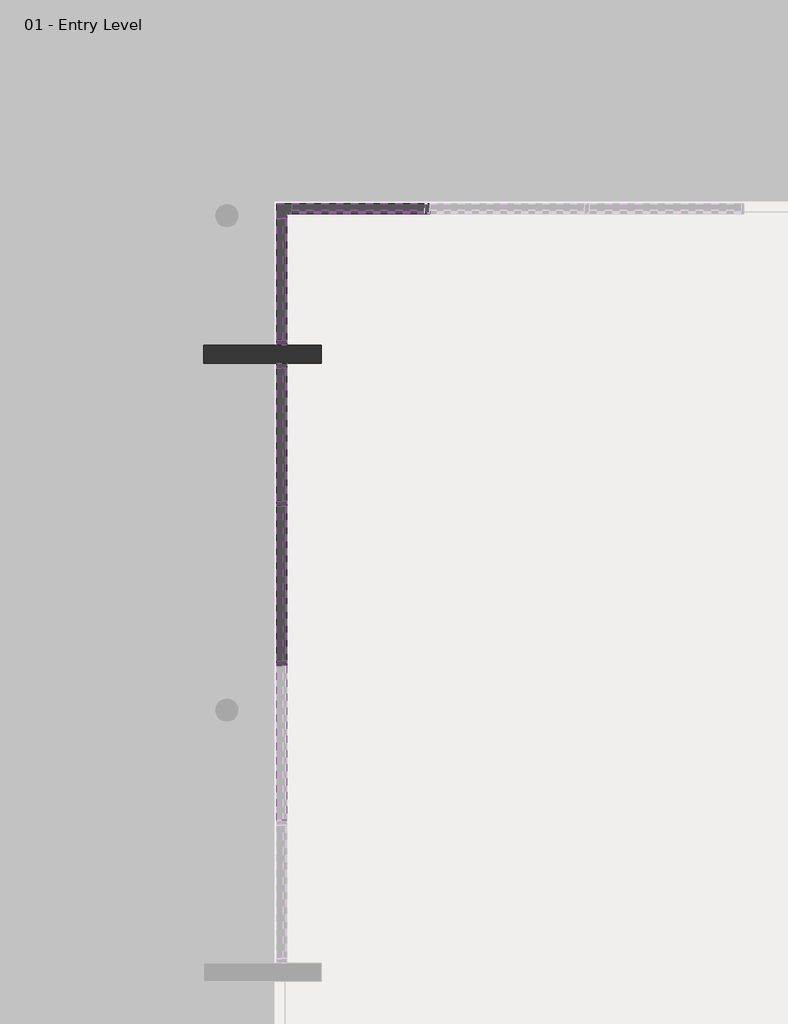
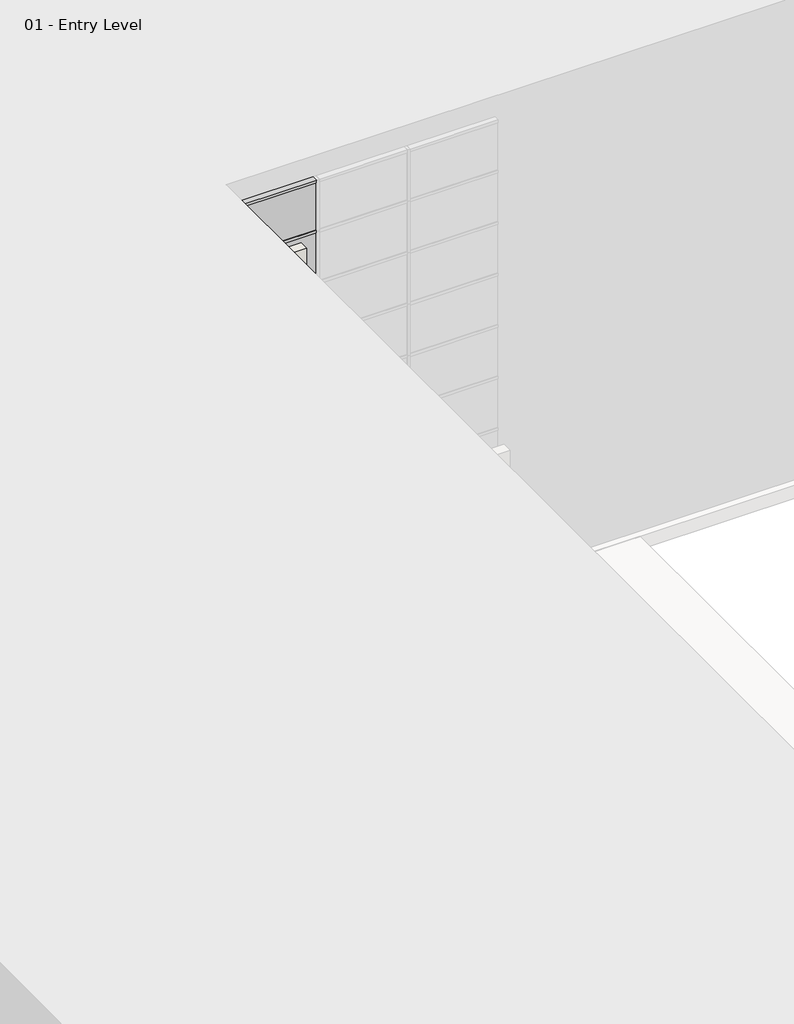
# One storey, part 25 of 34: 91 members, 36 plates, 1 wall.
"""IFC4 building model written with IfcOpenShell, lengths in millimetres."""

from ifc_helpers import new_model, si_unit, origin, origin_with_axes, place, context, project, spatial, polyline, outline, extrude, transform, mapped, element, save
from components import member_863be36e, member_2b49869a, member_75074519, member_391b434c, member_9e90ae50, member_515a5600, member_9fe7059d, member_fedd83b6, member_c1df12fd, system_panel_glazed_1b9d6098, system_panel_glazed_70da479d, system_panel_glazed_379c68fb, system_panel_glazed_1c1023c8, system_panel_glazed_2f1fb611, system_panel_glazed_7e97f2aa

model = new_model("IFC4")

# Units and contexts
model_context = context("Model", 3, world=origin())
ifc_project = project(units=[si_unit("LENGTHUNIT", "METRE", prefix="MILLI")], contexts=[model_context])

# Site, building, storey
site = spatial("IfcSite", under=ifc_project)
building = spatial("IfcBuilding", under=site)
storey = spatial("IfcBuildingStorey", under=building, Name="01 - Entry Level", Elevation=0.0)

# Members
placement = place(None, origin())
member_shape = member_863be36e(model_context)
element("IfcMember", 1, ObjectType="L Corner Mullion : 5\" x 5\" Corner", at=placement, inside=storey, context=model_context, shape_type="MappedRepresentation", body=[
    mapped(member_shape, transform((17184.0207476, 42751.3, 10972.8), x_axis=(-1.0, 0.0, 0.0), y_axis=(0.0, -1.0, 0.0), z_axis=(0.0, 0.0, 1.0))),
])
element("IfcMember", 2, ObjectType="L Corner Mullion : 5\" x 5\" Corner", at=placement, inside=storey, context=model_context, shape_type="MappedRepresentation", body=[
    mapped(member_shape, transform((17184.0207476, 42751.3, 1219.2), x_axis=(-1.0, 0.0, 0.0), y_axis=(0.0, -1.0, 0.0), z_axis=(0.0, 0.0, 1.0))),
])
element("IfcMember", 3, ObjectType="L Corner Mullion : 5\" x 5\" Corner", at=placement, inside=storey, context=model_context, shape_type="MappedRepresentation", body=[
    mapped(member_shape, transform((17184.0207476, 42751.3, 2438.4), x_axis=(-1.0, 0.0, 0.0), y_axis=(0.0, -1.0, 0.0), z_axis=(0.0, 0.0, 1.0))),
])
element("IfcMember", 4, ObjectType="L Corner Mullion : 5\" x 5\" Corner", at=placement, inside=storey, context=model_context, shape_type="MappedRepresentation", body=[
    mapped(member_shape, transform((17184.0207476, 42751.3, 3657.6), x_axis=(-1.0, 0.0, 0.0), y_axis=(0.0, -1.0, 0.0), z_axis=(0.0, 0.0, 1.0))),
])
element("IfcMember", 5, ObjectType="L Corner Mullion : 5\" x 5\" Corner", at=placement, inside=storey, context=model_context, shape_type="MappedRepresentation", body=[
    mapped(member_shape, transform((17184.0207476, 42751.3, 4876.8), x_axis=(-1.0, 0.0, 0.0), y_axis=(0.0, -1.0, 0.0), z_axis=(0.0, 0.0, 1.0))),
])
element("IfcMember", 6, ObjectType="L Corner Mullion : 5\" x 5\" Corner", at=placement, inside=storey, context=model_context, shape_type="MappedRepresentation", body=[
    mapped(member_shape, transform((17184.0207476, 42751.3, 6096.0), x_axis=(-1.0, 0.0, 0.0), y_axis=(0.0, -1.0, 0.0), z_axis=(0.0, 0.0, 1.0))),
])
element("IfcMember", 7, ObjectType="L Corner Mullion : 5\" x 5\" Corner", at=placement, inside=storey, context=model_context, shape_type="MappedRepresentation", body=[
    mapped(member_shape, transform((17184.0207476, 42751.3, 7315.2), x_axis=(-1.0, 0.0, 0.0), y_axis=(0.0, -1.0, 0.0), z_axis=(0.0, 0.0, 1.0))),
])
element("IfcMember", 8, ObjectType="L Corner Mullion : 5\" x 5\" Corner", at=placement, inside=storey, context=model_context, shape_type="MappedRepresentation", body=[
    mapped(member_shape, transform((17184.0207476, 42751.3, 8534.4), x_axis=(-1.0, 0.0, 0.0), y_axis=(0.0, -1.0, 0.0), z_axis=(0.0, 0.0, 1.0))),
])
element("IfcMember", 9, ObjectType="L Corner Mullion : 5\" x 5\" Corner", at=placement, inside=storey, context=model_context, shape_type="MappedRepresentation", body=[
    mapped(member_shape, transform((17184.0207476, 42751.3, 9753.6), x_axis=(-1.0, 0.0, 0.0), y_axis=(0.0, -1.0, 0.0), z_axis=(0.0, 0.0, 1.0))),
])
member_2_shape = member_2b49869a(model_context)
element("IfcMember", 10, ObjectType="Rectangular Mullion : 2.5\" x 5\" rectangular", at=placement, inside=storey, context=model_context, shape_type="MappedRepresentation", body=[
    mapped(member_2_shape, transform((17184.0207476, 36960.1, 9753.6), x_axis=(0.0, 1.0, 0.0), y_axis=(1.0, 0.0, 0.0), z_axis=(0.0, 0.0, -1.0))),
])
element("IfcMember", 11, ObjectType="Rectangular Mullion : 2.5\" x 5\" rectangular", at=placement, inside=storey, context=model_context, shape_type="MappedRepresentation", body=[
    mapped(member_2_shape, transform((17184.0207476, 38992.1, 9753.6), x_axis=(0.0, 1.0, 0.0), y_axis=(1.0, 0.0, 0.0), z_axis=(0.0, 0.0, -1.0))),
])
member_3_shape = member_75074519(model_context)
element("IfcMember", 12, ObjectType="Rectangular Mullion : 2.5\" x 5\" rectangular", at=placement, inside=storey, context=model_context, shape_type="MappedRepresentation", body=[
    mapped(member_3_shape, transform((17184.0207476, 41011.4, 10972.8), x_axis=(0.0, -1.0, 0.0), y_axis=(1.0, 0.0, 0.0), z_axis=(0.0, 0.0, 1.0))),
])
element("IfcMember", 13, ObjectType="Rectangular Mullion : 2.5\" x 5\" rectangular", at=placement, inside=storey, context=model_context, shape_type="MappedRepresentation", body=[
    mapped(member_3_shape, transform((17184.0207476, 40782.8, 9753.6), x_axis=(0.0, 1.0, 0.0), y_axis=(1.0, 0.0, 0.0), z_axis=(0.0, 0.0, -1.0))),
])
member_4_shape = member_391b434c(model_context)
element("IfcMember", 14, ObjectType="Rectangular Mullion : 2.5\" x 5\" rectangular", at=placement, inside=storey, context=model_context, shape_type="MappedRepresentation", body=[
    mapped(member_4_shape, transform((17184.0207476, 38960.35, 10972.8), x_axis=(0.0, 0.0, 1.0), y_axis=(1.0, 0.0, 0.0), z_axis=(0.0, 1.0, 0.0))),
])
element("IfcMember", 15, ObjectType="Rectangular Mullion : 2.5\" x 5\" rectangular", at=placement, inside=storey, context=model_context, shape_type="MappedRepresentation", body=[
    mapped(member_4_shape, transform((19069.9707476, 42751.3, 0.0), x_axis=(0.0, 0.0, -1.0), y_axis=(0.0, -1.0, 0.0), z_axis=(-1.0, 0.0, 0.0))),
])
member_5_shape = member_9e90ae50(model_context)
element("IfcMember", 16, ObjectType="Rectangular Mullion : 2.5\" x 5\" rectangular", at=placement, inside=storey, context=model_context, shape_type="MappedRepresentation", body=[
    mapped(member_5_shape, transform((17184.0207476, 38960.35, 1219.2), x_axis=(0.0, 0.0, 1.0), y_axis=(1.0, 0.0, 0.0), z_axis=(0.0, 1.0, 0.0))),
])
element("IfcMember", 17, ObjectType="Rectangular Mullion : 2.5\" x 5\" rectangular", at=placement, inside=storey, context=model_context, shape_type="MappedRepresentation", body=[
    mapped(member_5_shape, transform((17184.0207476, 38960.35, 2438.4), x_axis=(0.0, 0.0, 1.0), y_axis=(1.0, 0.0, 0.0), z_axis=(0.0, 1.0, 0.0))),
])
element("IfcMember", 18, ObjectType="Rectangular Mullion : 2.5\" x 5\" rectangular", at=placement, inside=storey, context=model_context, shape_type="MappedRepresentation", body=[
    mapped(member_5_shape, transform((17184.0207476, 38960.35, 3657.6), x_axis=(0.0, 0.0, 1.0), y_axis=(1.0, 0.0, 0.0), z_axis=(0.0, 1.0, 0.0))),
])
element("IfcMember", 19, ObjectType="Rectangular Mullion : 2.5\" x 5\" rectangular", at=placement, inside=storey, context=model_context, shape_type="MappedRepresentation", body=[
    mapped(member_5_shape, transform((17184.0207476, 38960.35, 4876.8), x_axis=(0.0, 0.0, 1.0), y_axis=(1.0, 0.0, 0.0), z_axis=(0.0, 1.0, 0.0))),
])
element("IfcMember", 20, ObjectType="Rectangular Mullion : 2.5\" x 5\" rectangular", at=placement, inside=storey, context=model_context, shape_type="MappedRepresentation", body=[
    mapped(member_5_shape, transform((17184.0207476, 38960.35, 6096.0), x_axis=(0.0, 0.0, 1.0), y_axis=(1.0, 0.0, 0.0), z_axis=(0.0, 1.0, 0.0))),
])
element("IfcMember", 21, ObjectType="Rectangular Mullion : 2.5\" x 5\" rectangular", at=placement, inside=storey, context=model_context, shape_type="MappedRepresentation", body=[
    mapped(member_5_shape, transform((17184.0207476, 38960.35, 7315.2), x_axis=(0.0, 0.0, 1.0), y_axis=(1.0, 0.0, 0.0), z_axis=(0.0, 1.0, 0.0))),
])
element("IfcMember", 22, ObjectType="Rectangular Mullion : 2.5\" x 5\" rectangular", at=placement, inside=storey, context=model_context, shape_type="MappedRepresentation", body=[
    mapped(member_5_shape, transform((17184.0207476, 38960.35, 8534.4), x_axis=(0.0, 0.0, 1.0), y_axis=(1.0, 0.0, 0.0), z_axis=(0.0, 1.0, 0.0))),
])
element("IfcMember", 23, ObjectType="Rectangular Mullion : 2.5\" x 5\" rectangular", at=placement, inside=storey, context=model_context, shape_type="MappedRepresentation", body=[
    mapped(member_5_shape, transform((17184.0207476, 36928.35, 9753.6), x_axis=(0.0, 0.0, 1.0), y_axis=(1.0, 0.0, 0.0), z_axis=(0.0, 1.0, 0.0))),
])
element("IfcMember", 24, ObjectType="Rectangular Mullion : 2.5\" x 5\" rectangular", at=placement, inside=storey, context=model_context, shape_type="MappedRepresentation", body=[
    mapped(member_5_shape, transform((17184.0207476, 38960.35, 9753.6), x_axis=(0.0, 0.0, 1.0), y_axis=(1.0, 0.0, 0.0), z_axis=(0.0, 1.0, 0.0))),
])
element("IfcMember", 25, ObjectType="Rectangular Mullion : 2.5\" x 5\" rectangular", at=placement, inside=storey, context=model_context, shape_type="MappedRepresentation", body=[
    mapped(member_2_shape, transform((19038.2207476, 42751.3, 0.0), x_axis=(1.0, 0.0, 0.0), y_axis=(0.0, -1.0, 0.0), z_axis=(0.0, 0.0, -1.0))),
])
element("IfcMember", 26, ObjectType="Rectangular Mullion : 2.5\" x 5\" rectangular", at=placement, inside=storey, context=model_context, shape_type="MappedRepresentation", body=[
    mapped(member_2_shape, transform((17184.0207476, 36960.1, 0.0), x_axis=(0.0, 1.0, 0.0), y_axis=(1.0, 0.0, 0.0), z_axis=(0.0, 0.0, -1.0))),
])
element("IfcMember", 27, ObjectType="Rectangular Mullion : 2.5\" x 5\" rectangular", at=placement, inside=storey, context=model_context, shape_type="MappedRepresentation", body=[
    mapped(member_2_shape, transform((17184.0207476, 38992.1, 0.0), x_axis=(0.0, 1.0, 0.0), y_axis=(1.0, 0.0, 0.0), z_axis=(0.0, 0.0, -1.0))),
])
element("IfcMember", 28, ObjectType="Rectangular Mullion : 2.5\" x 5\" rectangular", at=placement, inside=storey, context=model_context, shape_type="MappedRepresentation", body=[
    mapped(member_2_shape, transform((19038.2207476, 42751.3, 1219.2), x_axis=(1.0, 0.0, 0.0), y_axis=(0.0, -1.0, 0.0), z_axis=(0.0, 0.0, -1.0))),
])
element("IfcMember", 29, ObjectType="Rectangular Mullion : 2.5\" x 5\" rectangular", at=placement, inside=storey, context=model_context, shape_type="MappedRepresentation", body=[
    mapped(member_2_shape, transform((19038.2207476, 42751.3, 2438.4), x_axis=(1.0, 0.0, 0.0), y_axis=(0.0, -1.0, 0.0), z_axis=(0.0, 0.0, -1.0))),
])
element("IfcMember", 30, ObjectType="Rectangular Mullion : 2.5\" x 5\" rectangular", at=placement, inside=storey, context=model_context, shape_type="MappedRepresentation", body=[
    mapped(member_2_shape, transform((19038.2207476, 42751.3, 3657.6), x_axis=(1.0, 0.0, 0.0), y_axis=(0.0, -1.0, 0.0), z_axis=(0.0, 0.0, -1.0))),
])
element("IfcMember", 31, ObjectType="Rectangular Mullion : 2.5\" x 5\" rectangular", at=placement, inside=storey, context=model_context, shape_type="MappedRepresentation", body=[
    mapped(member_2_shape, transform((19038.2207476, 42751.3, 4876.8), x_axis=(1.0, 0.0, 0.0), y_axis=(0.0, -1.0, 0.0), z_axis=(0.0, 0.0, -1.0))),
])
element("IfcMember", 32, ObjectType="Rectangular Mullion : 2.5\" x 5\" rectangular", at=placement, inside=storey, context=model_context, shape_type="MappedRepresentation", body=[
    mapped(member_2_shape, transform((17184.0207476, 36960.1, 1219.2), x_axis=(0.0, 1.0, 0.0), y_axis=(1.0, 0.0, 0.0), z_axis=(0.0, 0.0, -1.0))),
])
element("IfcMember", 33, ObjectType="Rectangular Mullion : 2.5\" x 5\" rectangular", at=placement, inside=storey, context=model_context, shape_type="MappedRepresentation", body=[
    mapped(member_2_shape, transform((17184.0207476, 38992.1, 1219.2), x_axis=(0.0, 1.0, 0.0), y_axis=(1.0, 0.0, 0.0), z_axis=(0.0, 0.0, -1.0))),
])
element("IfcMember", 34, ObjectType="Rectangular Mullion : 2.5\" x 5\" rectangular", at=placement, inside=storey, context=model_context, shape_type="MappedRepresentation", body=[
    mapped(member_2_shape, transform((17184.0207476, 36960.1, 2438.4), x_axis=(0.0, 1.0, 0.0), y_axis=(1.0, 0.0, 0.0), z_axis=(0.0, 0.0, -1.0))),
])
element("IfcMember", 35, ObjectType="Rectangular Mullion : 2.5\" x 5\" rectangular", at=placement, inside=storey, context=model_context, shape_type="MappedRepresentation", body=[
    mapped(member_2_shape, transform((17184.0207476, 38992.1, 2438.4), x_axis=(0.0, 1.0, 0.0), y_axis=(1.0, 0.0, 0.0), z_axis=(0.0, 0.0, -1.0))),
])
element("IfcMember", 36, ObjectType="Rectangular Mullion : 2.5\" x 5\" rectangular", at=placement, inside=storey, context=model_context, shape_type="MappedRepresentation", body=[
    mapped(member_2_shape, transform((17184.0207476, 36960.1, 3657.6), x_axis=(0.0, 1.0, 0.0), y_axis=(1.0, 0.0, 0.0), z_axis=(0.0, 0.0, -1.0))),
])
element("IfcMember", 37, ObjectType="Rectangular Mullion : 2.5\" x 5\" rectangular", at=placement, inside=storey, context=model_context, shape_type="MappedRepresentation", body=[
    mapped(member_2_shape, transform((17184.0207476, 38992.1, 3657.6), x_axis=(0.0, 1.0, 0.0), y_axis=(1.0, 0.0, 0.0), z_axis=(0.0, 0.0, -1.0))),
])
element("IfcMember", 38, ObjectType="Rectangular Mullion : 2.5\" x 5\" rectangular", at=placement, inside=storey, context=model_context, shape_type="MappedRepresentation", body=[
    mapped(member_2_shape, transform((17184.0207476, 36960.1, 4876.8), x_axis=(0.0, 1.0, 0.0), y_axis=(1.0, 0.0, 0.0), z_axis=(0.0, 0.0, -1.0))),
])
element("IfcMember", 39, ObjectType="Rectangular Mullion : 2.5\" x 5\" rectangular", at=placement, inside=storey, context=model_context, shape_type="MappedRepresentation", body=[
    mapped(member_2_shape, transform((17184.0207476, 38992.1, 4876.8), x_axis=(0.0, 1.0, 0.0), y_axis=(1.0, 0.0, 0.0), z_axis=(0.0, 0.0, -1.0))),
])
element("IfcMember", 40, ObjectType="Rectangular Mullion : 2.5\" x 5\" rectangular", at=placement, inside=storey, context=model_context, shape_type="MappedRepresentation", body=[
    mapped(member_2_shape, transform((17184.0207476, 36960.1, 6096.0), x_axis=(0.0, 1.0, 0.0), y_axis=(1.0, 0.0, 0.0), z_axis=(0.0, 0.0, -1.0))),
])
element("IfcMember", 41, ObjectType="Rectangular Mullion : 2.5\" x 5\" rectangular", at=placement, inside=storey, context=model_context, shape_type="MappedRepresentation", body=[
    mapped(member_2_shape, transform((17184.0207476, 38992.1, 6096.0), x_axis=(0.0, 1.0, 0.0), y_axis=(1.0, 0.0, 0.0), z_axis=(0.0, 0.0, -1.0))),
])
element("IfcMember", 42, ObjectType="Rectangular Mullion : 2.5\" x 5\" rectangular", at=placement, inside=storey, context=model_context, shape_type="MappedRepresentation", body=[
    mapped(member_2_shape, transform((17184.0207476, 36960.1, 7315.2), x_axis=(0.0, 1.0, 0.0), y_axis=(1.0, 0.0, 0.0), z_axis=(0.0, 0.0, -1.0))),
])
element("IfcMember", 43, ObjectType="Rectangular Mullion : 2.5\" x 5\" rectangular", at=placement, inside=storey, context=model_context, shape_type="MappedRepresentation", body=[
    mapped(member_2_shape, transform((17184.0207476, 38992.1, 7315.2), x_axis=(0.0, 1.0, 0.0), y_axis=(1.0, 0.0, 0.0), z_axis=(0.0, 0.0, -1.0))),
])
element("IfcMember", 44, ObjectType="Rectangular Mullion : 2.5\" x 5\" rectangular", at=placement, inside=storey, context=model_context, shape_type="MappedRepresentation", body=[
    mapped(member_2_shape, transform((17184.0207476, 36960.1, 8534.4), x_axis=(0.0, 1.0, 0.0), y_axis=(1.0, 0.0, 0.0), z_axis=(0.0, 0.0, -1.0))),
])
element("IfcMember", 45, ObjectType="Rectangular Mullion : 2.5\" x 5\" rectangular", at=placement, inside=storey, context=model_context, shape_type="MappedRepresentation", body=[
    mapped(member_2_shape, transform((17184.0207476, 38992.1, 8534.4), x_axis=(0.0, 1.0, 0.0), y_axis=(1.0, 0.0, 0.0), z_axis=(0.0, 0.0, -1.0))),
])
element("IfcMember", 46, ObjectType="Rectangular Mullion : 2.5\" x 5\" rectangular", at=placement, inside=storey, context=model_context, shape_type="MappedRepresentation", body=[
    mapped(member_3_shape, transform((17184.0207476, 40782.8, 0.0), x_axis=(0.0, 1.0, 0.0), y_axis=(1.0, 0.0, 0.0), z_axis=(0.0, 0.0, -1.0))),
])
element("IfcMember", 47, ObjectType="Rectangular Mullion : 2.5\" x 5\" rectangular", at=placement, inside=storey, context=model_context, shape_type="MappedRepresentation", body=[
    mapped(member_3_shape, transform((17184.0207476, 40782.8, 1219.2), x_axis=(0.0, 1.0, 0.0), y_axis=(1.0, 0.0, 0.0), z_axis=(0.0, 0.0, -1.0))),
])
element("IfcMember", 48, ObjectType="Rectangular Mullion : 2.5\" x 5\" rectangular", at=placement, inside=storey, context=model_context, shape_type="MappedRepresentation", body=[
    mapped(member_3_shape, transform((17184.0207476, 40782.8, 2438.4), x_axis=(0.0, 1.0, 0.0), y_axis=(1.0, 0.0, 0.0), z_axis=(0.0, 0.0, -1.0))),
])
element("IfcMember", 49, ObjectType="Rectangular Mullion : 2.5\" x 5\" rectangular", at=placement, inside=storey, context=model_context, shape_type="MappedRepresentation", body=[
    mapped(member_3_shape, transform((17184.0207476, 40782.8, 3657.6), x_axis=(0.0, 1.0, 0.0), y_axis=(1.0, 0.0, 0.0), z_axis=(0.0, 0.0, -1.0))),
])
element("IfcMember", 50, ObjectType="Rectangular Mullion : 2.5\" x 5\" rectangular", at=placement, inside=storey, context=model_context, shape_type="MappedRepresentation", body=[
    mapped(member_3_shape, transform((17184.0207476, 40782.8, 4876.8), x_axis=(0.0, 1.0, 0.0), y_axis=(1.0, 0.0, 0.0), z_axis=(0.0, 0.0, -1.0))),
])
element("IfcMember", 51, ObjectType="Rectangular Mullion : 2.5\" x 5\" rectangular", at=placement, inside=storey, context=model_context, shape_type="MappedRepresentation", body=[
    mapped(member_3_shape, transform((17184.0207476, 40782.8, 6096.0), x_axis=(0.0, 1.0, 0.0), y_axis=(1.0, 0.0, 0.0), z_axis=(0.0, 0.0, -1.0))),
])
element("IfcMember", 52, ObjectType="Rectangular Mullion : 2.5\" x 5\" rectangular", at=placement, inside=storey, context=model_context, shape_type="MappedRepresentation", body=[
    mapped(member_3_shape, transform((17184.0207476, 40782.8, 7315.2), x_axis=(0.0, 1.0, 0.0), y_axis=(1.0, 0.0, 0.0), z_axis=(0.0, 0.0, -1.0))),
])
element("IfcMember", 53, ObjectType="Rectangular Mullion : 2.5\" x 5\" rectangular", at=placement, inside=storey, context=model_context, shape_type="MappedRepresentation", body=[
    mapped(member_3_shape, transform((17184.0207476, 40782.8, 8534.4), x_axis=(0.0, 1.0, 0.0), y_axis=(1.0, 0.0, 0.0), z_axis=(0.0, 0.0, -1.0))),
])
element("IfcMember", 54, ObjectType="Rectangular Mullion : 2.5\" x 5\" rectangular", at=placement, inside=storey, context=model_context, shape_type="MappedRepresentation", body=[
    mapped(member_3_shape, transform((17184.0207476, 41011.4, 1219.2), x_axis=(0.0, -1.0, 0.0), y_axis=(1.0, 0.0, 0.0), z_axis=(0.0, 0.0, 1.0))),
])
element("IfcMember", 55, ObjectType="Rectangular Mullion : 2.5\" x 5\" rectangular", at=placement, inside=storey, context=model_context, shape_type="MappedRepresentation", body=[
    mapped(member_3_shape, transform((17184.0207476, 41011.4, 2438.4), x_axis=(0.0, -1.0, 0.0), y_axis=(1.0, 0.0, 0.0), z_axis=(0.0, 0.0, 1.0))),
])
element("IfcMember", 56, ObjectType="Rectangular Mullion : 2.5\" x 5\" rectangular", at=placement, inside=storey, context=model_context, shape_type="MappedRepresentation", body=[
    mapped(member_3_shape, transform((17184.0207476, 41011.4, 3657.6), x_axis=(0.0, -1.0, 0.0), y_axis=(1.0, 0.0, 0.0), z_axis=(0.0, 0.0, 1.0))),
])
element("IfcMember", 57, ObjectType="Rectangular Mullion : 2.5\" x 5\" rectangular", at=placement, inside=storey, context=model_context, shape_type="MappedRepresentation", body=[
    mapped(member_3_shape, transform((17184.0207476, 41011.4, 4876.8), x_axis=(0.0, -1.0, 0.0), y_axis=(1.0, 0.0, 0.0), z_axis=(0.0, 0.0, 1.0))),
])
element("IfcMember", 58, ObjectType="Rectangular Mullion : 2.5\" x 5\" rectangular", at=placement, inside=storey, context=model_context, shape_type="MappedRepresentation", body=[
    mapped(member_3_shape, transform((17184.0207476, 41011.4, 6096.0), x_axis=(0.0, -1.0, 0.0), y_axis=(1.0, 0.0, 0.0), z_axis=(0.0, 0.0, 1.0))),
])
element("IfcMember", 59, ObjectType="Rectangular Mullion : 2.5\" x 5\" rectangular", at=placement, inside=storey, context=model_context, shape_type="MappedRepresentation", body=[
    mapped(member_3_shape, transform((17184.0207476, 41011.4, 7315.2), x_axis=(0.0, -1.0, 0.0), y_axis=(1.0, 0.0, 0.0), z_axis=(0.0, 0.0, 1.0))),
])
element("IfcMember", 60, ObjectType="Rectangular Mullion : 2.5\" x 5\" rectangular", at=placement, inside=storey, context=model_context, shape_type="MappedRepresentation", body=[
    mapped(member_3_shape, transform((17184.0207476, 41011.4, 8534.4), x_axis=(0.0, -1.0, 0.0), y_axis=(1.0, 0.0, 0.0), z_axis=(0.0, 0.0, 1.0))),
])
element("IfcMember", 61, ObjectType="Rectangular Mullion : 2.5\" x 5\" rectangular", at=placement, inside=storey, context=model_context, shape_type="MappedRepresentation", body=[
    mapped(member_3_shape, transform((17184.0207476, 41011.4, 9753.6), x_axis=(0.0, -1.0, 0.0), y_axis=(1.0, 0.0, 0.0), z_axis=(0.0, 0.0, 1.0))),
])
member_6_shape = member_515a5600(model_context)
element("IfcMember", 62, ObjectType="Rectangular Mullion : 2.5\" x 5\" rectangular", at=placement, inside=storey, context=model_context, shape_type="MappedRepresentation", body=[
    mapped(member_6_shape, transform((17184.0207476, 40719.3, 10972.8), x_axis=(0.0, 0.0, 1.0), y_axis=(1.0, 0.0, 0.0), z_axis=(0.0, 1.0, 0.0))),
])
element("IfcMember", 63, ObjectType="Rectangular Mullion : 2.5\" x 5\" rectangular", at=placement, inside=storey, context=model_context, shape_type="MappedRepresentation", body=[
    mapped(member_6_shape, transform((19006.4707476, 42751.3, 10972.8), x_axis=(0.0, 0.0, 1.0), y_axis=(0.0, -1.0, 0.0), z_axis=(1.0, 0.0, 0.0))),
])
element("IfcMember", 64, ObjectType="Rectangular Mullion : 2.5\" x 5\" rectangular", at=placement, inside=storey, context=model_context, shape_type="MappedRepresentation", body=[
    mapped(member_6_shape, transform((17311.0207476, 42751.3, 0.0), x_axis=(0.0, 0.0, -1.0), y_axis=(0.0, -1.0, 0.0), z_axis=(-1.0, 0.0, 0.0))),
])
element("IfcMember", 65, ObjectType="Rectangular Mullion : 2.5\" x 5\" rectangular", at=placement, inside=storey, context=model_context, shape_type="MappedRepresentation", body=[
    mapped(member_6_shape, transform((17184.0207476, 39023.85, 0.0), x_axis=(0.0, 0.0, -1.0), y_axis=(1.0, 0.0, 0.0), z_axis=(0.0, -1.0, 0.0))),
])
member_7_shape = member_9fe7059d(model_context)
element("IfcMember", 66, ObjectType="Rectangular Mullion : 2.5\" x 5\" rectangular", at=placement, inside=storey, context=model_context, shape_type="MappedRepresentation", body=[
    mapped(member_7_shape, transform((19006.4707476, 42751.3, 1219.2), x_axis=(0.0, 0.0, 1.0), y_axis=(0.0, -1.0, 0.0), z_axis=(1.0, 0.0, 0.0))),
])
element("IfcMember", 67, ObjectType="Rectangular Mullion : 2.5\" x 5\" rectangular", at=placement, inside=storey, context=model_context, shape_type="MappedRepresentation", body=[
    mapped(member_7_shape, transform((19006.4707476, 42751.3, 2438.4), x_axis=(0.0, 0.0, 1.0), y_axis=(0.0, -1.0, 0.0), z_axis=(1.0, 0.0, 0.0))),
])
element("IfcMember", 68, ObjectType="Rectangular Mullion : 2.5\" x 5\" rectangular", at=placement, inside=storey, context=model_context, shape_type="MappedRepresentation", body=[
    mapped(member_7_shape, transform((19006.4707476, 42751.3, 3657.6), x_axis=(0.0, 0.0, 1.0), y_axis=(0.0, -1.0, 0.0), z_axis=(1.0, 0.0, 0.0))),
])
element("IfcMember", 69, ObjectType="Rectangular Mullion : 2.5\" x 5\" rectangular", at=placement, inside=storey, context=model_context, shape_type="MappedRepresentation", body=[
    mapped(member_7_shape, transform((19006.4707476, 42751.3, 4876.8), x_axis=(0.0, 0.0, 1.0), y_axis=(0.0, -1.0, 0.0), z_axis=(1.0, 0.0, 0.0))),
])
element("IfcMember", 70, ObjectType="Rectangular Mullion : 2.5\" x 5\" rectangular", at=placement, inside=storey, context=model_context, shape_type="MappedRepresentation", body=[
    mapped(member_7_shape, transform((19006.4707476, 42751.3, 6096.0), x_axis=(0.0, 0.0, 1.0), y_axis=(0.0, -1.0, 0.0), z_axis=(1.0, 0.0, 0.0))),
])
element("IfcMember", 71, ObjectType="Rectangular Mullion : 2.5\" x 5\" rectangular", at=placement, inside=storey, context=model_context, shape_type="MappedRepresentation", body=[
    mapped(member_7_shape, transform((19006.4707476, 42751.3, 7315.2), x_axis=(0.0, 0.0, 1.0), y_axis=(0.0, -1.0, 0.0), z_axis=(1.0, 0.0, 0.0))),
])
element("IfcMember", 72, ObjectType="Rectangular Mullion : 2.5\" x 5\" rectangular", at=placement, inside=storey, context=model_context, shape_type="MappedRepresentation", body=[
    mapped(member_7_shape, transform((19006.4707476, 42751.3, 8534.4), x_axis=(0.0, 0.0, 1.0), y_axis=(0.0, -1.0, 0.0), z_axis=(1.0, 0.0, 0.0))),
])
element("IfcMember", 73, ObjectType="Rectangular Mullion : 2.5\" x 5\" rectangular", at=placement, inside=storey, context=model_context, shape_type="MappedRepresentation", body=[
    mapped(member_7_shape, transform((19006.4707476, 42751.3, 9753.6), x_axis=(0.0, 0.0, 1.0), y_axis=(0.0, -1.0, 0.0), z_axis=(1.0, 0.0, 0.0))),
])
element("IfcMember", 74, ObjectType="Rectangular Mullion : 2.5\" x 5\" rectangular", at=placement, inside=storey, context=model_context, shape_type="MappedRepresentation", body=[
    mapped(member_7_shape, transform((17184.0207476, 40719.3, 1219.2), x_axis=(0.0, 0.0, 1.0), y_axis=(1.0, 0.0, 0.0), z_axis=(0.0, 1.0, 0.0))),
])
element("IfcMember", 75, ObjectType="Rectangular Mullion : 2.5\" x 5\" rectangular", at=placement, inside=storey, context=model_context, shape_type="MappedRepresentation", body=[
    mapped(member_7_shape, transform((17184.0207476, 40719.3, 2438.4), x_axis=(0.0, 0.0, 1.0), y_axis=(1.0, 0.0, 0.0), z_axis=(0.0, 1.0, 0.0))),
])
element("IfcMember", 76, ObjectType="Rectangular Mullion : 2.5\" x 5\" rectangular", at=placement, inside=storey, context=model_context, shape_type="MappedRepresentation", body=[
    mapped(member_7_shape, transform((17184.0207476, 40719.3, 3657.6), x_axis=(0.0, 0.0, 1.0), y_axis=(1.0, 0.0, 0.0), z_axis=(0.0, 1.0, 0.0))),
])
element("IfcMember", 77, ObjectType="Rectangular Mullion : 2.5\" x 5\" rectangular", at=placement, inside=storey, context=model_context, shape_type="MappedRepresentation", body=[
    mapped(member_7_shape, transform((17184.0207476, 40719.3, 4876.8), x_axis=(0.0, 0.0, 1.0), y_axis=(1.0, 0.0, 0.0), z_axis=(0.0, 1.0, 0.0))),
])
element("IfcMember", 78, ObjectType="Rectangular Mullion : 2.5\" x 5\" rectangular", at=placement, inside=storey, context=model_context, shape_type="MappedRepresentation", body=[
    mapped(member_7_shape, transform((17184.0207476, 40719.3, 6096.0), x_axis=(0.0, 0.0, 1.0), y_axis=(1.0, 0.0, 0.0), z_axis=(0.0, 1.0, 0.0))),
])
element("IfcMember", 79, ObjectType="Rectangular Mullion : 2.5\" x 5\" rectangular", at=placement, inside=storey, context=model_context, shape_type="MappedRepresentation", body=[
    mapped(member_7_shape, transform((17184.0207476, 40719.3, 7315.2), x_axis=(0.0, 0.0, 1.0), y_axis=(1.0, 0.0, 0.0), z_axis=(0.0, 1.0, 0.0))),
])
element("IfcMember", 80, ObjectType="Rectangular Mullion : 2.5\" x 5\" rectangular", at=placement, inside=storey, context=model_context, shape_type="MappedRepresentation", body=[
    mapped(member_7_shape, transform((17184.0207476, 40719.3, 8534.4), x_axis=(0.0, 0.0, 1.0), y_axis=(1.0, 0.0, 0.0), z_axis=(0.0, 1.0, 0.0))),
])
element("IfcMember", 81, ObjectType="Rectangular Mullion : 2.5\" x 5\" rectangular", at=placement, inside=storey, context=model_context, shape_type="MappedRepresentation", body=[
    mapped(member_7_shape, transform((17184.0207476, 40719.3, 9753.6), x_axis=(0.0, 0.0, 1.0), y_axis=(1.0, 0.0, 0.0), z_axis=(0.0, 1.0, 0.0))),
])
member_8_shape = member_fedd83b6(model_context)
element("IfcMember", 82, ObjectType="Rectangular Mullion : 2.5\" x 5\" rectangular", at=placement, inside=storey, context=model_context, shape_type="MappedRepresentation", body=[
    mapped(member_8_shape, transform((17184.0207476, 42624.3, 10972.8), x_axis=(0.0, 0.0, 1.0), y_axis=(1.0, 0.0, 0.0), z_axis=(0.0, 1.0, 0.0))),
])
element("IfcMember", 83, ObjectType="Rectangular Mullion : 2.5\" x 5\" rectangular", at=placement, inside=storey, context=model_context, shape_type="MappedRepresentation", body=[
    mapped(member_8_shape, transform((17184.0207476, 41074.9, 0.0), x_axis=(0.0, 0.0, -1.0), y_axis=(1.0, 0.0, 0.0), z_axis=(0.0, -1.0, 0.0))),
])
member_9_shape = member_c1df12fd(model_context)
element("IfcMember", 84, ObjectType="Rectangular Mullion : 2.5\" x 5\" rectangular", at=placement, inside=storey, context=model_context, shape_type="MappedRepresentation", body=[
    mapped(member_9_shape, transform((17184.0207476, 42624.3, 1219.2), x_axis=(0.0, 0.0, 1.0), y_axis=(1.0, 0.0, 0.0), z_axis=(0.0, 1.0, 0.0))),
])
element("IfcMember", 85, ObjectType="Rectangular Mullion : 2.5\" x 5\" rectangular", at=placement, inside=storey, context=model_context, shape_type="MappedRepresentation", body=[
    mapped(member_9_shape, transform((17184.0207476, 42624.3, 2438.4), x_axis=(0.0, 0.0, 1.0), y_axis=(1.0, 0.0, 0.0), z_axis=(0.0, 1.0, 0.0))),
])
element("IfcMember", 86, ObjectType="Rectangular Mullion : 2.5\" x 5\" rectangular", at=placement, inside=storey, context=model_context, shape_type="MappedRepresentation", body=[
    mapped(member_9_shape, transform((17184.0207476, 42624.3, 3657.6), x_axis=(0.0, 0.0, 1.0), y_axis=(1.0, 0.0, 0.0), z_axis=(0.0, 1.0, 0.0))),
])
element("IfcMember", 87, ObjectType="Rectangular Mullion : 2.5\" x 5\" rectangular", at=placement, inside=storey, context=model_context, shape_type="MappedRepresentation", body=[
    mapped(member_9_shape, transform((17184.0207476, 42624.3, 4876.8), x_axis=(0.0, 0.0, 1.0), y_axis=(1.0, 0.0, 0.0), z_axis=(0.0, 1.0, 0.0))),
])
element("IfcMember", 88, ObjectType="Rectangular Mullion : 2.5\" x 5\" rectangular", at=placement, inside=storey, context=model_context, shape_type="MappedRepresentation", body=[
    mapped(member_9_shape, transform((17184.0207476, 42624.3, 6096.0), x_axis=(0.0, 0.0, 1.0), y_axis=(1.0, 0.0, 0.0), z_axis=(0.0, 1.0, 0.0))),
])
element("IfcMember", 89, ObjectType="Rectangular Mullion : 2.5\" x 5\" rectangular", at=placement, inside=storey, context=model_context, shape_type="MappedRepresentation", body=[
    mapped(member_9_shape, transform((17184.0207476, 42624.3, 7315.2), x_axis=(0.0, 0.0, 1.0), y_axis=(1.0, 0.0, 0.0), z_axis=(0.0, 1.0, 0.0))),
])
element("IfcMember", 90, ObjectType="Rectangular Mullion : 2.5\" x 5\" rectangular", at=placement, inside=storey, context=model_context, shape_type="MappedRepresentation", body=[
    mapped(member_9_shape, transform((17184.0207476, 42624.3, 8534.4), x_axis=(0.0, 0.0, 1.0), y_axis=(1.0, 0.0, 0.0), z_axis=(0.0, 1.0, 0.0))),
])
element("IfcMember", 91, ObjectType="Rectangular Mullion : 2.5\" x 5\" rectangular", at=placement, inside=storey, context=model_context, shape_type="MappedRepresentation", body=[
    mapped(member_9_shape, transform((17184.0207476, 42624.3, 9753.6), x_axis=(0.0, 0.0, 1.0), y_axis=(1.0, 0.0, 0.0), z_axis=(0.0, 1.0, 0.0))),
])

# Plates
system_panel_glazed_shape = system_panel_glazed_1b9d6098(model_context)
element("IfcPlate", 92, ObjectType="System Panel : Glazed", at=placement, inside=storey, context=model_context, shape_type="MappedRepresentation", body=[
    mapped(system_panel_glazed_shape, transform((17184.0207476, 37976.1, 63.5), x_axis=(0.0, 1.0, 0.0), y_axis=(-1.0, 0.0, 0.0), z_axis=(0.0, 0.0, 1.0))),
])
element("IfcPlate", 93, ObjectType="System Panel : Glazed", at=placement, inside=storey, context=model_context, shape_type="MappedRepresentation", body=[
    mapped(system_panel_glazed_shape, transform((17184.0207476, 37976.1, 9785.35), x_axis=(0.0, 1.0, 0.0), y_axis=(-1.0, 0.0, 0.0), z_axis=(0.0, 0.0, 1.0))),
])
system_panel_glazed_2_shape = system_panel_glazed_70da479d(model_context)
element("IfcPlate", 94, ObjectType="System Panel : Glazed", at=placement, inside=storey, context=model_context, shape_type="MappedRepresentation", body=[
    mapped(system_panel_glazed_2_shape, transform((17184.0207476, 37976.1, 1250.95), x_axis=(0.0, 1.0, 0.0), y_axis=(-1.0, 0.0, 0.0), z_axis=(0.0, 0.0, 1.0))),
])
element("IfcPlate", 95, ObjectType="System Panel : Glazed", at=placement, inside=storey, context=model_context, shape_type="MappedRepresentation", body=[
    mapped(system_panel_glazed_2_shape, transform((17184.0207476, 37976.1, 2470.15), x_axis=(0.0, 1.0, 0.0), y_axis=(-1.0, 0.0, 0.0), z_axis=(0.0, 0.0, 1.0))),
])
element("IfcPlate", 96, ObjectType="System Panel : Glazed", at=placement, inside=storey, context=model_context, shape_type="MappedRepresentation", body=[
    mapped(system_panel_glazed_2_shape, transform((17184.0207476, 37976.1, 3689.35), x_axis=(0.0, 1.0, 0.0), y_axis=(-1.0, 0.0, 0.0), z_axis=(0.0, 0.0, 1.0))),
])
element("IfcPlate", 97, ObjectType="System Panel : Glazed", at=placement, inside=storey, context=model_context, shape_type="MappedRepresentation", body=[
    mapped(system_panel_glazed_2_shape, transform((17184.0207476, 37976.1, 4908.55), x_axis=(0.0, 1.0, 0.0), y_axis=(-1.0, 0.0, 0.0), z_axis=(0.0, 0.0, 1.0))),
])
element("IfcPlate", 98, ObjectType="System Panel : Glazed", at=placement, inside=storey, context=model_context, shape_type="MappedRepresentation", body=[
    mapped(system_panel_glazed_2_shape, transform((17184.0207476, 37976.1, 6127.75), x_axis=(0.0, 1.0, 0.0), y_axis=(-1.0, 0.0, 0.0), z_axis=(0.0, 0.0, 1.0))),
])
element("IfcPlate", 99, ObjectType="System Panel : Glazed", at=placement, inside=storey, context=model_context, shape_type="MappedRepresentation", body=[
    mapped(system_panel_glazed_2_shape, transform((17184.0207476, 37976.1, 7346.95), x_axis=(0.0, 1.0, 0.0), y_axis=(-1.0, 0.0, 0.0), z_axis=(0.0, 0.0, 1.0))),
])
element("IfcPlate", 100, ObjectType="System Panel : Glazed", at=placement, inside=storey, context=model_context, shape_type="MappedRepresentation", body=[
    mapped(system_panel_glazed_2_shape, transform((17184.0207476, 37976.1, 8566.15), x_axis=(0.0, 1.0, 0.0), y_axis=(-1.0, 0.0, 0.0), z_axis=(0.0, 0.0, 1.0))),
])
system_panel_glazed_3_shape = system_panel_glazed_379c68fb(model_context)
element("IfcPlate", 101, ObjectType="System Panel : Glazed", at=placement, inside=storey, context=model_context, shape_type="MappedRepresentation", body=[
    mapped(system_panel_glazed_3_shape, transform((18158.7457476, 42751.3, 63.5), x_axis=(1.0, 0.0, 0.0), y_axis=(0.0, 1.0, 0.0), z_axis=(0.0, 0.0, 1.0))),
])
element("IfcPlate", 102, ObjectType="System Panel : Glazed", at=placement, inside=storey, context=model_context, shape_type="MappedRepresentation", body=[
    mapped(system_panel_glazed_3_shape, transform((18158.7457476, 42751.3, 9785.35), x_axis=(1.0, 0.0, 0.0), y_axis=(0.0, 1.0, 0.0), z_axis=(0.0, 0.0, 1.0))),
])
element("IfcPlate", 103, ObjectType="System Panel : Glazed", at=placement, inside=storey, context=model_context, shape_type="MappedRepresentation", body=[
    mapped(system_panel_glazed_3_shape, transform((17184.0207476, 39871.575, 63.5), x_axis=(0.0, 1.0, 0.0), y_axis=(-1.0, 0.0, 0.0), z_axis=(0.0, 0.0, 1.0))),
])
element("IfcPlate", 104, ObjectType="System Panel : Glazed", at=placement, inside=storey, context=model_context, shape_type="MappedRepresentation", body=[
    mapped(system_panel_glazed_3_shape, transform((17184.0207476, 39871.575, 9785.35), x_axis=(0.0, 1.0, 0.0), y_axis=(-1.0, 0.0, 0.0), z_axis=(0.0, 0.0, 1.0))),
])
system_panel_glazed_4_shape = system_panel_glazed_1c1023c8(model_context)
element("IfcPlate", 105, ObjectType="System Panel : Glazed", at=placement, inside=storey, context=model_context, shape_type="MappedRepresentation", body=[
    mapped(system_panel_glazed_4_shape, transform((18158.7457476, 42751.3, 1250.95), x_axis=(1.0, 0.0, 0.0), y_axis=(0.0, 1.0, 0.0), z_axis=(0.0, 0.0, 1.0))),
])
element("IfcPlate", 106, ObjectType="System Panel : Glazed", at=placement, inside=storey, context=model_context, shape_type="MappedRepresentation", body=[
    mapped(system_panel_glazed_4_shape, transform((18158.7457476, 42751.3, 2470.15), x_axis=(1.0, 0.0, 0.0), y_axis=(0.0, 1.0, 0.0), z_axis=(0.0, 0.0, 1.0))),
])
element("IfcPlate", 107, ObjectType="System Panel : Glazed", at=placement, inside=storey, context=model_context, shape_type="MappedRepresentation", body=[
    mapped(system_panel_glazed_4_shape, transform((18158.7457476, 42751.3, 3689.35), x_axis=(1.0, 0.0, 0.0), y_axis=(0.0, 1.0, 0.0), z_axis=(0.0, 0.0, 1.0))),
])
element("IfcPlate", 108, ObjectType="System Panel : Glazed", at=placement, inside=storey, context=model_context, shape_type="MappedRepresentation", body=[
    mapped(system_panel_glazed_4_shape, transform((18158.7457476, 42751.3, 4908.55), x_axis=(1.0, 0.0, 0.0), y_axis=(0.0, 1.0, 0.0), z_axis=(0.0, 0.0, 1.0))),
])
element("IfcPlate", 109, ObjectType="System Panel : Glazed", at=placement, inside=storey, context=model_context, shape_type="MappedRepresentation", body=[
    mapped(system_panel_glazed_4_shape, transform((18158.7457476, 42751.3, 6127.75), x_axis=(1.0, 0.0, 0.0), y_axis=(0.0, 1.0, 0.0), z_axis=(0.0, 0.0, 1.0))),
])
element("IfcPlate", 110, ObjectType="System Panel : Glazed", at=placement, inside=storey, context=model_context, shape_type="MappedRepresentation", body=[
    mapped(system_panel_glazed_4_shape, transform((18158.7457476, 42751.3, 7346.95), x_axis=(1.0, 0.0, 0.0), y_axis=(0.0, 1.0, 0.0), z_axis=(0.0, 0.0, 1.0))),
])
element("IfcPlate", 111, ObjectType="System Panel : Glazed", at=placement, inside=storey, context=model_context, shape_type="MappedRepresentation", body=[
    mapped(system_panel_glazed_4_shape, transform((18158.7457476, 42751.3, 8566.15), x_axis=(1.0, 0.0, 0.0), y_axis=(0.0, 1.0, 0.0), z_axis=(0.0, 0.0, 1.0))),
])
element("IfcPlate", 112, ObjectType="System Panel : Glazed", at=placement, inside=storey, context=model_context, shape_type="MappedRepresentation", body=[
    mapped(system_panel_glazed_4_shape, transform((17184.0207476, 39871.575, 1250.95), x_axis=(0.0, 1.0, 0.0), y_axis=(-1.0, 0.0, 0.0), z_axis=(0.0, 0.0, 1.0))),
])
element("IfcPlate", 113, ObjectType="System Panel : Glazed", at=placement, inside=storey, context=model_context, shape_type="MappedRepresentation", body=[
    mapped(system_panel_glazed_4_shape, transform((17184.0207476, 39871.575, 2470.15), x_axis=(0.0, 1.0, 0.0), y_axis=(-1.0, 0.0, 0.0), z_axis=(0.0, 0.0, 1.0))),
])
element("IfcPlate", 114, ObjectType="System Panel : Glazed", at=placement, inside=storey, context=model_context, shape_type="MappedRepresentation", body=[
    mapped(system_panel_glazed_4_shape, transform((17184.0207476, 39871.575, 3689.35), x_axis=(0.0, 1.0, 0.0), y_axis=(-1.0, 0.0, 0.0), z_axis=(0.0, 0.0, 1.0))),
])
element("IfcPlate", 115, ObjectType="System Panel : Glazed", at=placement, inside=storey, context=model_context, shape_type="MappedRepresentation", body=[
    mapped(system_panel_glazed_4_shape, transform((17184.0207476, 39871.575, 4908.55), x_axis=(0.0, 1.0, 0.0), y_axis=(-1.0, 0.0, 0.0), z_axis=(0.0, 0.0, 1.0))),
])
element("IfcPlate", 116, ObjectType="System Panel : Glazed", at=placement, inside=storey, context=model_context, shape_type="MappedRepresentation", body=[
    mapped(system_panel_glazed_4_shape, transform((17184.0207476, 39871.575, 6127.75), x_axis=(0.0, 1.0, 0.0), y_axis=(-1.0, 0.0, 0.0), z_axis=(0.0, 0.0, 1.0))),
])
element("IfcPlate", 117, ObjectType="System Panel : Glazed", at=placement, inside=storey, context=model_context, shape_type="MappedRepresentation", body=[
    mapped(system_panel_glazed_4_shape, transform((17184.0207476, 39871.575, 7346.95), x_axis=(0.0, 1.0, 0.0), y_axis=(-1.0, 0.0, 0.0), z_axis=(0.0, 0.0, 1.0))),
])
element("IfcPlate", 118, ObjectType="System Panel : Glazed", at=placement, inside=storey, context=model_context, shape_type="MappedRepresentation", body=[
    mapped(system_panel_glazed_4_shape, transform((17184.0207476, 39871.575, 8566.15), x_axis=(0.0, 1.0, 0.0), y_axis=(-1.0, 0.0, 0.0), z_axis=(0.0, 0.0, 1.0))),
])
system_panel_glazed_5_shape = system_panel_glazed_2f1fb611(model_context)
element("IfcPlate", 119, ObjectType="System Panel : Glazed", at=placement, inside=storey, context=model_context, shape_type="MappedRepresentation", body=[
    mapped(system_panel_glazed_5_shape, transform((17184.0207476, 41849.6, 63.5), x_axis=(0.0, 1.0, 0.0), y_axis=(-1.0, 0.0, 0.0), z_axis=(0.0, 0.0, 1.0))),
])
element("IfcPlate", 120, ObjectType="System Panel : Glazed", at=placement, inside=storey, context=model_context, shape_type="MappedRepresentation", body=[
    mapped(system_panel_glazed_5_shape, transform((17184.0207476, 41849.6, 9785.35), x_axis=(0.0, 1.0, 0.0), y_axis=(-1.0, 0.0, 0.0), z_axis=(0.0, 0.0, 1.0))),
])
system_panel_glazed_6_shape = system_panel_glazed_7e97f2aa(model_context)
element("IfcPlate", 121, ObjectType="System Panel : Glazed", at=placement, inside=storey, context=model_context, shape_type="MappedRepresentation", body=[
    mapped(system_panel_glazed_6_shape, transform((17184.0207476, 41849.6, 1250.95), x_axis=(0.0, 1.0, 0.0), y_axis=(-1.0, 0.0, 0.0), z_axis=(0.0, 0.0, 1.0))),
])
element("IfcPlate", 122, ObjectType="System Panel : Glazed", at=placement, inside=storey, context=model_context, shape_type="MappedRepresentation", body=[
    mapped(system_panel_glazed_6_shape, transform((17184.0207476, 41849.6, 2470.15), x_axis=(0.0, 1.0, 0.0), y_axis=(-1.0, 0.0, 0.0), z_axis=(0.0, 0.0, 1.0))),
])
element("IfcPlate", 123, ObjectType="System Panel : Glazed", at=placement, inside=storey, context=model_context, shape_type="MappedRepresentation", body=[
    mapped(system_panel_glazed_6_shape, transform((17184.0207476, 41849.6, 3689.35), x_axis=(0.0, 1.0, 0.0), y_axis=(-1.0, 0.0, 0.0), z_axis=(0.0, 0.0, 1.0))),
])
element("IfcPlate", 124, ObjectType="System Panel : Glazed", at=placement, inside=storey, context=model_context, shape_type="MappedRepresentation", body=[
    mapped(system_panel_glazed_6_shape, transform((17184.0207476, 41849.6, 4908.55), x_axis=(0.0, 1.0, 0.0), y_axis=(-1.0, 0.0, 0.0), z_axis=(0.0, 0.0, 1.0))),
])
element("IfcPlate", 125, ObjectType="System Panel : Glazed", at=placement, inside=storey, context=model_context, shape_type="MappedRepresentation", body=[
    mapped(system_panel_glazed_6_shape, transform((17184.0207476, 41849.6, 6127.75), x_axis=(0.0, 1.0, 0.0), y_axis=(-1.0, 0.0, 0.0), z_axis=(0.0, 0.0, 1.0))),
])
element("IfcPlate", 126, ObjectType="System Panel : Glazed", at=placement, inside=storey, context=model_context, shape_type="MappedRepresentation", body=[
    mapped(system_panel_glazed_6_shape, transform((17184.0207476, 41849.6, 7346.95), x_axis=(0.0, 1.0, 0.0), y_axis=(-1.0, 0.0, 0.0), z_axis=(0.0, 0.0, 1.0))),
])
element("IfcPlate", 127, ObjectType="System Panel : Glazed", at=placement, inside=storey, context=model_context, shape_type="MappedRepresentation", body=[
    mapped(system_panel_glazed_6_shape, transform((17184.0207476, 41849.6, 8566.15), x_axis=(0.0, 1.0, 0.0), y_axis=(-1.0, 0.0, 0.0), z_axis=(0.0, 0.0, 1.0))),
])

# Wall
element("IfcWall", 128, ObjectType="9\" concrete", at=placement, inside=storey, context=model_context, shape_type="SweptSolid", body=[
    extrude(outline(polyline([(17688.9115197, 40782.8), (16188.9115197, 40782.8), (16188.9115197, 41011.4), (17688.9115197, 41011.4), (17688.9115197, 40782.8)])), origin_with_axes(), (0.0, 0.0, 1.0), 10972.8),
])

save(model, "model.ifc")
